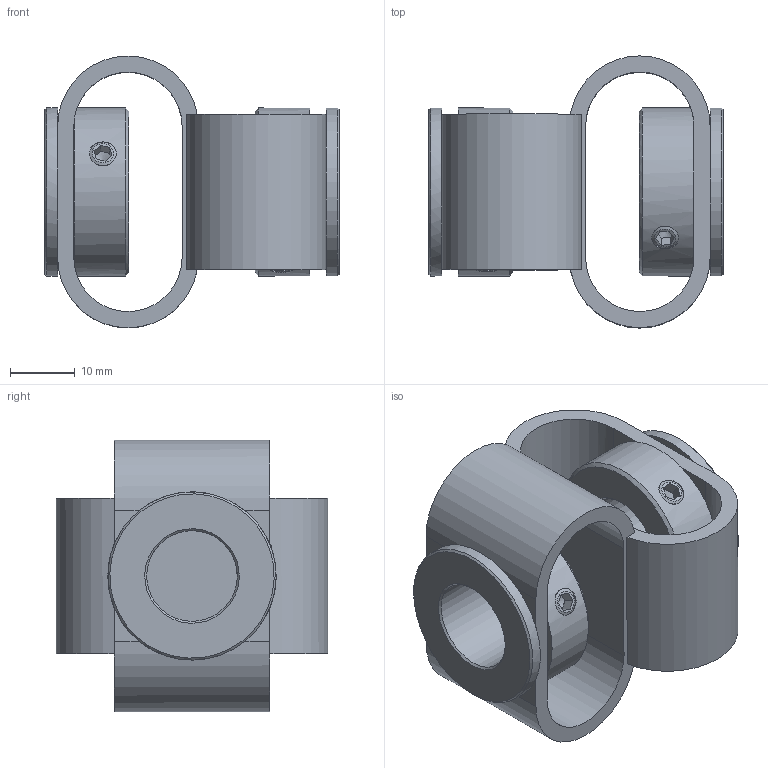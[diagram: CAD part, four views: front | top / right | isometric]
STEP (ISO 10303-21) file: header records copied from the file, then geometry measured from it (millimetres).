
FILE_DESCRIPTION(/* description */ (''),/* implementation_level */ '2;1');
FILE_NAME(/* name */ 'E:\ABP_bauteile\Doppelschlaufenkupplung\DKPS_4848\Doppelschlaufenkupplung_DKPS_4848_14_14.stp',/* time_stamp */ '2015-03-13T14:25:17+01:00',/* author */ ('Rob'),/* organization */ (''),/* preprocessor_version */ 'ST-DEVELOPER v15.6',/* originating_system */ 'Autodesk Inventor 2015',/* authorisation */ '');
FILE_SCHEMA (('CONFIG_CONTROL_DESIGN'));
Length unit declared in the file: millimetre
Products named in the file (1): Bauteil78
Bounding box: 45.55 x 42.03 x 42.03 mm (x, y, z)
Volume: 17825.4 mm3; surface area: 13340.6 mm2
Topology: 1 solids, 2 shells, 134 faces, 311 edges, 188 vertices
Faces by surface type: plane 83, cylinder 27, cone 24
Full cylindrical faces by diameter (mm): 4.134 x8, 14 x2, 16.5 x2, 18 x3, 26 x4
Entity records: 3580 total; most frequent: CARTESIAN_POINT 849, DIRECTION 588, ORIENTED_EDGE 470, EDGE_CURVE 235, AXIS2_PLACEMENT_3D 234, EDGE_LOOP 198, VERTEX_POINT 155, FACE_OUTER_BOUND 134
